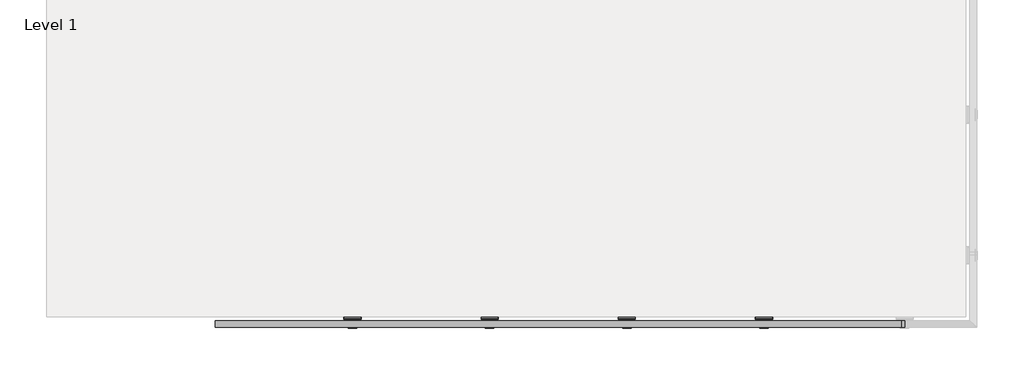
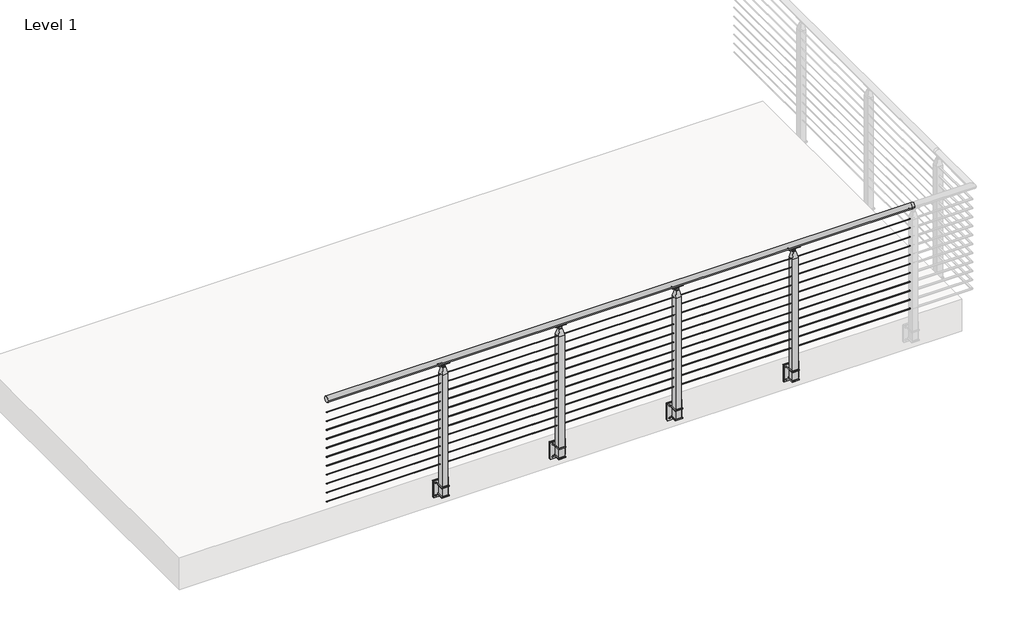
# One storey, part 3 of 26: 1 railing.
"""IFC4 building model written with IfcOpenShell, lengths in millimetres."""

import ifcopenshell
import ifcopenshell.guid

model = None  # the IFC model being written
_history = None  # IfcOwnerHistory: only IFC2X3 demands one
_inside = {}  # id of a spatial element -> (the spatial element, [elements in it])
_under = {}  # id of a project, library or spatial element -> (it, [spatial elements below it])
_declared = {}  # id of a project -> (the project, [libraries it declares])
_typed = {}  # id of a type object -> (the type object, [elements of that type])
_made_of = {}  # id of a material, layer set ... -> (it, [elements and type objects made of it])


def new_model(schema):
    """Start an empty IFC model of exactly this schema.

    Asked for "IFC4X3", IfcOpenShell would pick the latest addendum, in which some entities
    have other attributes; the version numbers below select the first issue.
    IFC2X3 requires an IfcOwnerHistory on every rooted entity: one is made here for all.
    """
    global model, _history
    if schema == "IFC4X3":
        model = ifcopenshell.file(schema_version=(4, 3, 0, 0))
    else:
        model = ifcopenshell.file(schema=schema)
    _inside.clear()
    _under.clear()
    _declared.clear()
    _typed.clear()
    _made_of.clear()
    _history = None
    if model.schema == "IFC2X3":
        org = make("IfcOrganization", Name="unknown")
        user = make(
            "IfcPersonAndOrganization",
            ThePerson=make("IfcPerson", FamilyName="unknown"),
            TheOrganization=org,
        )
        app = make(
            "IfcApplication",
            ApplicationDeveloper=org,
            Version="unknown",
            ApplicationFullName="unknown",
            ApplicationIdentifier="unknown",
        )
        _history = make(
            "IfcOwnerHistory",
            OwningUser=user,
            OwningApplication=app,
            ChangeAction="ADDED",
            CreationDate=0,
        )
    return model


def make(cls, **values):
    """One entity of the class cls with the attributes given. An attribute that is None is left unset."""
    return model.create_entity(
        cls, **{name: value for name, value in values.items() if value is not None}
    )


def rooted(cls, **values):
    """An entity with a GlobalId (a new one), such as an element, a storey or a relation."""
    return make(cls, GlobalId=ifcopenshell.guid.new(), OwnerHistory=_history, **values)


def si_unit(unit_type, name, prefix=None):
    """IfcSIUnit, for example si_unit("LENGTHUNIT", "METRE", prefix="MILLI")."""
    return make("IfcSIUnit", UnitType=unit_type, Prefix=prefix, Name=name)


def assignment(units):
    """IfcUnitAssignment: the units of a project."""
    return None if units is None else make("IfcUnitAssignment", Units=units)


def point(xyz):
    """IfcCartesianPoint."""
    return None if xyz is None else make("IfcCartesianPoint", Coordinates=xyz)


def direction(xyz):
    """IfcDirection."""
    return None if xyz is None else make("IfcDirection", DirectionRatios=xyz)


def frame(location, z_axis=None, x_axis=None):
    """IfcAxis2Placement3D, a coordinate frame: its origin and axes. An axis left out is left unset."""
    return make(
        "IfcAxis2Placement3D",
        Location=point(location),
        Axis=direction(z_axis),
        RefDirection=direction(x_axis),
    )


def frame_2d(location, x_axis=None):
    """IfcAxis2Placement2D, a coordinate frame in the plane: its origin and x axis."""
    return make(
        "IfcAxis2Placement2D", Location=point(location), RefDirection=direction(x_axis)
    )


def origin():
    """The frame at (0, 0, 0) with its axes left unset."""
    return frame((0.0, 0.0, 0.0))


def place(relative_to, where):
    """IfcLocalPlacement: puts the frame where relative to a parent placement (None: the world)."""
    return make(
        "IfcLocalPlacement", PlacementRelTo=relative_to, RelativePlacement=where
    )


def context(
    kind, dimensions, precision=None, world=None, true_north=None, identifier=None
):
    """IfcGeometricRepresentationContext, for example the 3D "Model" context."""
    return make(
        "IfcGeometricRepresentationContext",
        ContextIdentifier=identifier,
        ContextType=kind,
        CoordinateSpaceDimension=dimensions,
        Precision=precision,
        WorldCoordinateSystem=world,
        TrueNorth=true_north,
    )


def project(units=None, contexts=None):
    """IfcProject with its units and contexts."""
    return rooted(
        "IfcProject",
        Name="project",
        RepresentationContexts=contexts,
        UnitsInContext=assignment(units),
    )


def spatial(cls, under=None, at=None, **own):
    """A site, building, storey or space (cls), placed at a placement, below another one or the project."""
    s = rooted(cls, ObjectPlacement=at, **own)
    if under is not None:
        _under.setdefault(under.id(), (under, []))[1].append(s)
    return s


def polyline(points):
    """IfcPolyline through the points."""
    return make("IfcPolyline", Points=[point(p) for p in points])


def circle_curve(where, radius):
    """IfcCircle in the frame where."""
    return make("IfcCircle", Position=where, Radius=radius)


def trimmed(basis, trim1, trim2, sense, master):
    """IfcTrimmedCurve: the piece of a basis curve between two trims."""
    return make(
        "IfcTrimmedCurve",
        BasisCurve=basis,
        Trim1=trim1,
        Trim2=trim2,
        SenseAgreement=sense,
        MasterRepresentation=master,
    )


def segment(curve, same_sense, transition):
    """IfcCompositeCurveSegment."""
    return make(
        "IfcCompositeCurveSegment",
        Transition=transition,
        SameSense=same_sense,
        ParentCurve=curve,
    )


def composite_curve(segments, self_intersect=None):
    """IfcCompositeCurve: segments joined end to end."""
    return make("IfcCompositeCurve", Segments=segments, SelfIntersect=self_intersect)


def outline(outer, holes=None, kind="AREA"):
    """IfcArbitraryClosedProfileDef: a profile drawn as a closed curve; with holes, ...WithVoids."""
    if holes is None:
        return make("IfcArbitraryClosedProfileDef", ProfileType=kind, OuterCurve=outer)
    return make(
        "IfcArbitraryProfileDefWithVoids",
        ProfileType=kind,
        OuterCurve=outer,
        InnerCurves=holes,
    )


def extrude(swept, where, along, depth):
    """IfcExtrudedAreaSolid: the profile swept, set in the frame where, extruded along a direction by depth."""
    return make(
        "IfcExtrudedAreaSolid",
        SweptArea=swept,
        Position=where,
        ExtrudedDirection=direction(along),
        Depth=depth,
    )


def faces_of(points, faces, orient=None, outer=None):
    """IfcFace entities. A face is a list of loops; a loop is a list of indices into points, from 0.

    orient and outer hold one flag for each loop. By default every Orientation is true, the
    first loop of a face is its IfcFaceOuterBound and the others are IfcFaceBound.
    """
    made = []
    for i, loops in enumerate(faces):
        bounds = []
        for j, loop in enumerate(loops):
            is_outer = j == 0 if outer is None else outer[i][j]
            bounds.append(
                make(
                    "IfcFaceOuterBound" if is_outer else "IfcFaceBound",
                    Bound=make("IfcPolyLoop", Polygon=[points[k] for k in loop]),
                    Orientation=True if orient is None else orient[i][j],
                )
            )
        made.append(make("IfcFace", Bounds=bounds))
    return made


def faceted_brep(points, faces, orient=None, outer=None, voids=None):
    """IfcFacetedBrep: a solid bounded by flat faces; with voids (closed shells), ...WithVoids."""
    shared = [point(p) for p in points]
    hull = make("IfcClosedShell", CfsFaces=faces_of(shared, faces, orient, outer))
    if voids is None:
        return make("IfcFacetedBrep", Outer=hull)
    return make(
        "IfcFacetedBrepWithVoids",
        Outer=hull,
        Voids=[
            make(cls, CfsFaces=faces_of(shared, fs, o, b)) for cls, fs, o, b in voids
        ],
    )


def shape(context_of_items, identifier, shape_type, items):
    """IfcShapeRepresentation: the items that make up one representation, for example the "Body"."""
    return make(
        "IfcShapeRepresentation",
        ContextOfItems=context_of_items,
        RepresentationIdentifier=identifier,
        RepresentationType=shape_type,
        Items=items,
    )


def made_of(thing, what):
    """Note that an element or type object is made of a material, layer set ...; save() writes the relation."""
    if what is not None:
        _made_of.setdefault(what.id(), (what, []))[1].append(thing)
    return thing


def element(
    cls,
    number,
    at=None,
    inside=None,
    cuts=None,
    type_object=None,
    material=None,
    context=None,
    identifier="Body",
    shape_type=None,
    held_by="IfcProductDefinitionShape",
    body=None,
    shapes=None,
    **own,
):
    """One element of the class cls, such as IfcWall. Its Tag is "e" and its number.

    at: its placement. inside: the storey or other place that contains it. cuts: it is an
    opening in that element (IfcRelVoidsElement). A single representation is given by context,
    identifier, shape_type and body (its items); several are given by shapes. held_by: the class
    of the entity that holds the representations. save() writes the other relations.
    """
    e = rooted(cls, Tag="e%d" % number, ObjectPlacement=at, **own)
    if body is not None:
        shapes = [shape(context, identifier, shape_type, body)]
    if shapes is not None:
        e.Representation = make(held_by, Representations=shapes)
    if inside is not None:
        _inside.setdefault(inside.id(), (inside, []))[1].append(e)
    if cuts is not None:
        rooted(
            "IfcRelVoidsElement", RelatingBuildingElement=cuts, RelatedOpeningElement=e
        )
    if type_object is not None:
        _typed.setdefault(type_object.id(), (type_object, []))[1].append(e)
    return made_of(e, material)


def aggregate(whole, parts):
    """IfcRelAggregates: a whole, such as a stair, and the parts it consists of."""
    return rooted("IfcRelAggregates", RelatingObject=whole, RelatedObjects=parts)


def save(model, path):
    """Write the relations noted so far, then the file.

    IfcRelAggregates (storeys below a building ...), IfcRelContainedInSpatialStructure (elements
    in a storey), IfcRelDefinesByType, IfcRelAssociatesMaterial and IfcRelDeclares: one each for
    every whole, place, type object, material and project.
    """
    for whole, parts in _under.values():
        aggregate(whole, parts)
    for where, things in _inside.values():
        rooted(
            "IfcRelContainedInSpatialStructure",
            RelatedElements=things,
            RelatingStructure=where,
        )
    for kind, things in _typed.values():
        rooted("IfcRelDefinesByType", RelatedObjects=things, RelatingType=kind)
    for what, things in _made_of.values():
        rooted("IfcRelAssociatesMaterial", RelatedObjects=things, RelatingMaterial=what)
    for by, libraries in _declared.values():
        rooted("IfcRelDeclares", RelatingContext=by, RelatedDefinitions=libraries)
    model.write(path)


def plane_surface(at):
    """IfcPlane: the flat surface through the origin of the frame at, square to its z axis."""
    return make("IfcPlane", Position=at)


def cylinder_surface(at, radius):
    """IfcCylindricalSurface: all points at the distance radius from the z axis of the frame at."""
    return make("IfcCylindricalSurface", Position=at, Radius=radius)


def advanced_brep(points, edges, surfaces, faces):
    """IfcAdvancedBrep: a solid bounded by faces that lie on surfaces and meet in shared edges.

    An edge is (start, end): straight between two places in points (the first is 0);
    or (start, end, curve); or (start, end, curve, False) where it runs against its curve.
    A face is (place in surfaces, loops), or (place, loops, False) where it looks against
    its surface's normal. A loop lists edges by number (the first is 1), with a minus sign
    where the edge is run from its end to its start. The first loop is the outer one.
    """
    corners = [point(p) for p in points]
    vertices = [make("IfcVertexPoint", VertexGeometry=c) for c in corners]
    made = []
    for start, end, *more in edges:
        made.append(
            make(
                "IfcEdgeCurve",
                EdgeStart=vertices[start],
                EdgeEnd=vertices[end],
                EdgeGeometry=more[0] if more else make("IfcPolyline", Points=[corners[start], corners[end]]),
                SameSense=more[1] if len(more) > 1 else True,
            )
        )
    hull = []
    for where, loops, *sense in faces:
        bounds = []
        for j, loop in enumerate(loops):
            ring = [make("IfcOrientedEdge", EdgeElement=made[abs(k) - 1], Orientation=k > 0) for k in loop]
            bounds.append(
                make(
                    "IfcFaceOuterBound" if j == 0 else "IfcFaceBound",
                    Bound=make("IfcEdgeLoop", EdgeList=ring),
                    Orientation=True,
                )
            )
        hull.append(make("IfcAdvancedFace", Bounds=bounds, FaceSurface=surfaces[where], SameSense=sense[0] if sense else True))
    return make("IfcAdvancedBrep", Outer=make("IfcClosedShell", CfsFaces=hull))


model = new_model("IFC4")

# Units and contexts
model_context = context("Model", 3, world=origin())
ifc_project = project(units=[si_unit("LENGTHUNIT", "METRE", prefix="MILLI")], contexts=[model_context])

# Site, building, storey
site = spatial("IfcSite", under=ifc_project)
building = spatial("IfcBuilding", under=site)
storey = spatial("IfcBuildingStorey", under=building, Name="Level 1", Elevation=0.0)

# Railing
placement = place(None, origin())
element("IfcRailing", 1, ObjectType="VIVA-CUBE-Cable-Fascia Mount-Straight", at=placement, inside=storey, context=model_context, shape_type="SolidModel", body=[
    advanced_brep(
    [(-10491.8783367, -57264.3465075, 1054.1), (-10491.8783367, -57213.5465075, 1054.1), (-5411.8783367, -57264.3465075, 1054.1), (-5411.8783367, -57213.5465075, 1054.1), (-5386.8752117, -57264.3465075, 1054.1), (-5386.8752117, -57213.5465075, 1054.1)],
    [
        (0, 1, circle_curve(frame((-10491.8783367, -57238.9465075, 1054.1), z_axis=(-1.0, 0.0, 0.0), x_axis=(0.0, 1.0, 0.0)), 25.4)),
        (1, 0, circle_curve(frame((-10491.8783367, -57238.9465075, 1054.1), z_axis=(-1.0, 0.0, 0.0), x_axis=(0.0, 1.0, 0.0)), 25.4)),
        (0, 2),
        (2, 3, circle_curve(frame((-5411.8783367, -57238.9465075, 1054.1), z_axis=(-1.0, 0.0, 0.0), x_axis=(0.0, 1.0, 0.0)), 25.4)),
        (3, 1),
        (3, 2, circle_curve(frame((-5411.8783367, -57238.9465075, 1054.1), z_axis=(-1.0, 0.0, 0.0), x_axis=(0.0, 1.0, 0.0)), 25.4)),
        (4, 5, circle_curve(frame((-5386.8752117, -57238.9465075, 1054.1), z_axis=(1.0, 0.0, 0.0), x_axis=(0.0, 1.0, 0.0)), 25.4)),
        (5, 4, circle_curve(frame((-5386.8752117, -57238.9465075, 1054.1), z_axis=(1.0, 0.0, 0.0), x_axis=(0.0, 1.0, 0.0)), 25.4)),
        (2, 4),
        (5, 3),
    ],
    [
        plane_surface(frame((-10491.8783367, -57238.9465075, 1079.5), z_axis=(-1.0, 0.0, 0.0), x_axis=(0.0, 1.0, 0.0))),
        cylinder_surface(frame((-10491.8783367, -57238.9465075, 1054.1), z_axis=(-1.0, 0.0, 0.0), x_axis=(0.0, 1.0, 0.0)), 25.4),
        plane_surface(frame((-5386.8752117, -57238.9465075, 1079.5), z_axis=(1.0, 0.0, 0.0), x_axis=(0.0, 1.0, 0.0))),
        cylinder_surface(frame((-5411.8783367, -57238.9465075, 1054.1), z_axis=(-1.0, 0.0, 0.0), x_axis=(0.0, 1.0, 0.0)), 25.4),
    ],
    [
        (0, [[1, 2]]),
        (1, [[-1, 3, 4, 5]]),
        (1, [[-2, -5, 6, -3]]),
        (2, [[7, 8]]),
        (3, [[-4, 9, -8, 10]]),
        (3, [[-6, -10, -7, -9]]),
    ],
),
    extrude(outline(composite_curve([segment(trimmed(circle_curve(frame_2d((-57238.9465075, 937.4124)), 2.3876), [point((-57236.5589075, 937.4124))], [point((-57241.3341075, 937.4124))], False, "CARTESIAN"), True, "CONTINUOUS"), segment(trimmed(circle_curve(frame_2d((-57238.9465075, 937.4124)), 2.3876), [point((-57241.3341075, 937.4124))], [point((-57236.5589075, 937.4124))], False, "CARTESIAN"), True, "CONTINUOUS")], self_intersect=False)), frame((-10491.8783367, 0.0, 0.0), z_axis=(1.0, 0.0, 0.0), x_axis=(0.0, 1.0, 0.0)), (0.0, 0.0, 1.0), 5080.0),
    extrude(outline(composite_curve([segment(trimmed(circle_curve(frame_2d((-57238.9465075, 854.8624)), 2.3876), [point((-57236.5589075, 854.8624))], [point((-57241.3341075, 854.8624))], False, "CARTESIAN"), True, "CONTINUOUS"), segment(trimmed(circle_curve(frame_2d((-57238.9465075, 854.8624)), 2.3876), [point((-57241.3341075, 854.8624))], [point((-57236.5589075, 854.8624))], False, "CARTESIAN"), True, "CONTINUOUS")], self_intersect=False)), frame((-10491.8783367, 0.0, 0.0), z_axis=(1.0, 0.0, 0.0), x_axis=(0.0, 1.0, 0.0)), (0.0, 0.0, 1.0), 5080.0),
    extrude(outline(composite_curve([segment(trimmed(circle_curve(frame_2d((-57238.9465075, 772.3124)), 2.3876), [point((-57236.5589075, 772.3124))], [point((-57241.3341075, 772.3124))], False, "CARTESIAN"), True, "CONTINUOUS"), segment(trimmed(circle_curve(frame_2d((-57238.9465075, 772.3124)), 2.3876), [point((-57241.3341075, 772.3124))], [point((-57236.5589075, 772.3124))], False, "CARTESIAN"), True, "CONTINUOUS")], self_intersect=False)), frame((-10491.8783367, 0.0, 0.0), z_axis=(1.0, 0.0, 0.0), x_axis=(0.0, 1.0, 0.0)), (0.0, 0.0, 1.0), 5080.0),
    extrude(outline(composite_curve([segment(trimmed(circle_curve(frame_2d((-57238.9465075, 689.7624)), 2.3876), [point((-57236.5589075, 689.7624))], [point((-57241.3341075, 689.7624))], False, "CARTESIAN"), True, "CONTINUOUS"), segment(trimmed(circle_curve(frame_2d((-57238.9465075, 689.7624)), 2.3876), [point((-57241.3341075, 689.7624))], [point((-57236.5589075, 689.7624))], False, "CARTESIAN"), True, "CONTINUOUS")], self_intersect=False)), frame((-10491.8783367, 0.0, 0.0), z_axis=(1.0, 0.0, 0.0), x_axis=(0.0, 1.0, 0.0)), (0.0, 0.0, 1.0), 5080.0),
    extrude(outline(composite_curve([segment(trimmed(circle_curve(frame_2d((-57238.9465075, 607.2124)), 2.3876), [point((-57236.5589075, 607.2124))], [point((-57241.3341075, 607.2124))], False, "CARTESIAN"), True, "CONTINUOUS"), segment(trimmed(circle_curve(frame_2d((-57238.9465075, 607.2124)), 2.3876), [point((-57241.3341075, 607.2124))], [point((-57236.5589075, 607.2124))], False, "CARTESIAN"), True, "CONTINUOUS")], self_intersect=False)), frame((-10491.8783367, 0.0, 0.0), z_axis=(1.0, 0.0, 0.0), x_axis=(0.0, 1.0, 0.0)), (0.0, 0.0, 1.0), 5080.0),
    extrude(outline(composite_curve([segment(trimmed(circle_curve(frame_2d((-57238.9465075, 524.6624)), 2.3876), [point((-57236.5589075, 524.6624))], [point((-57241.3341075, 524.6624))], False, "CARTESIAN"), True, "CONTINUOUS"), segment(trimmed(circle_curve(frame_2d((-57238.9465075, 524.6624)), 2.3876), [point((-57241.3341075, 524.6624))], [point((-57236.5589075, 524.6624))], False, "CARTESIAN"), True, "CONTINUOUS")], self_intersect=False)), frame((-10491.8783367, 0.0, 0.0), z_axis=(1.0, 0.0, 0.0), x_axis=(0.0, 1.0, 0.0)), (0.0, 0.0, 1.0), 5080.0),
    extrude(outline(composite_curve([segment(trimmed(circle_curve(frame_2d((-57238.9465075, 442.1124)), 2.3876), [point((-57236.5589075, 442.1124))], [point((-57241.3341075, 442.1124))], False, "CARTESIAN"), True, "CONTINUOUS"), segment(trimmed(circle_curve(frame_2d((-57238.9465075, 442.1124)), 2.3876), [point((-57241.3341075, 442.1124))], [point((-57236.5589075, 442.1124))], False, "CARTESIAN"), True, "CONTINUOUS")], self_intersect=False)), frame((-10491.8783367, 0.0, 0.0), z_axis=(1.0, 0.0, 0.0), x_axis=(0.0, 1.0, 0.0)), (0.0, 0.0, 1.0), 5080.0),
    extrude(outline(composite_curve([segment(trimmed(circle_curve(frame_2d((-57238.9465075, 359.5624)), 2.3876), [point((-57236.5589075, 359.5624))], [point((-57241.3341075, 359.5624))], False, "CARTESIAN"), True, "CONTINUOUS"), segment(trimmed(circle_curve(frame_2d((-57238.9465075, 359.5624)), 2.3876), [point((-57241.3341075, 359.5624))], [point((-57236.5589075, 359.5624))], False, "CARTESIAN"), True, "CONTINUOUS")], self_intersect=False)), frame((-10491.8783367, 0.0, 0.0), z_axis=(1.0, 0.0, 0.0), x_axis=(0.0, 1.0, 0.0)), (0.0, 0.0, 1.0), 5080.0),
    extrude(outline(composite_curve([segment(trimmed(circle_curve(frame_2d((-57238.9465075, 277.0124)), 2.3876), [point((-57236.5589075, 277.0124))], [point((-57241.3341075, 277.0124))], False, "CARTESIAN"), True, "CONTINUOUS"), segment(trimmed(circle_curve(frame_2d((-57238.9465075, 277.0124)), 2.3876), [point((-57241.3341075, 277.0124))], [point((-57236.5589075, 277.0124))], False, "CARTESIAN"), True, "CONTINUOUS")], self_intersect=False)), frame((-10491.8783367, 0.0, 0.0), z_axis=(1.0, 0.0, 0.0), x_axis=(0.0, 1.0, 0.0)), (0.0, 0.0, 1.0), 5080.0),
    extrude(outline(composite_curve([segment(trimmed(circle_curve(frame_2d((-57238.9465075, 194.4624)), 2.3876), [point((-57236.5589075, 194.4624))], [point((-57241.3341075, 194.4624))], False, "CARTESIAN"), True, "CONTINUOUS"), segment(trimmed(circle_curve(frame_2d((-57238.9465075, 194.4624)), 2.3876), [point((-57241.3341075, 194.4624))], [point((-57236.5589075, 194.4624))], False, "CARTESIAN"), True, "CONTINUOUS")], self_intersect=False)), frame((-10491.8783367, 0.0, 0.0), z_axis=(1.0, 0.0, 0.0), x_axis=(0.0, 1.0, 0.0)), (0.0, 0.0, 1.0), 5080.0),
    extrude(outline(composite_curve([segment(trimmed(circle_curve(frame_2d((-57238.9465075, 111.9124)), 2.3876), [point((-57236.5589075, 111.9124))], [point((-57241.3341075, 111.9124))], False, "CARTESIAN"), True, "CONTINUOUS"), segment(trimmed(circle_curve(frame_2d((-57238.9465075, 111.9124)), 2.3876), [point((-57241.3341075, 111.9124))], [point((-57236.5589075, 111.9124))], False, "CARTESIAN"), True, "CONTINUOUS")], self_intersect=False)), frame((-10491.8783367, 0.0, 0.0), z_axis=(1.0, 0.0, 0.0), x_axis=(0.0, 1.0, 0.0)), (0.0, 0.0, 1.0), 5080.0),
    extrude(outline(polyline([(-6363.9814617, -57184.4334719), (-6363.9814617, -57194.4156719), (-6490.9814617, -57194.4156719), (-6490.9814617, -57184.4334719), (-6363.9814617, -57184.4334719)])), frame((0.0, 0.0, -209.55), z_axis=(0.0, 0.0, 1.0), x_axis=(1.0, 0.0, 0.0)), (0.0, 0.0, 1.0), 152.4),
    extrude(outline(composite_curve([segment(polyline([(-57.15, -6366.5214617), (-57.15, -6488.4414617)]), True, "CONTINUOUS"), segment(trimmed(circle_curve(frame_2d((-59.69, -6488.4414617)), 2.54), [point((-57.15, -6488.4414617))], [point((-59.69, -6490.9814617))], False, "CARTESIAN"), True, "CONTINUOUS"), segment(polyline([(-59.69, -6490.9814617), (-207.01, -6490.9814617)]), True, "CONTINUOUS"), segment(trimmed(circle_curve(frame_2d((-207.01, -6488.4414617)), 2.54), [point((-207.01, -6490.9814617))], [point((-209.55, -6488.4414617))], False, "CARTESIAN"), True, "CONTINUOUS"), segment(polyline([(-209.55, -6488.4414617), (-209.55, -6366.5214617)]), True, "CONTINUOUS"), segment(trimmed(circle_curve(frame_2d((-207.01, -6366.5214617)), 2.54), [point((-209.55, -6366.5214617))], [point((-207.01, -6363.9814617))], False, "CARTESIAN"), True, "CONTINUOUS"), segment(polyline([(-207.01, -6363.9814617), (-59.69, -6363.9814617)]), True, "CONTINUOUS"), segment(trimmed(circle_curve(frame_2d((-59.69, -6366.5214617)), 2.54), [point((-59.69, -6363.9814617))], [point((-57.15, -6366.5214617))], False, "CARTESIAN"), True, "CONTINUOUS")], self_intersect=False), holes=[composite_curve([segment(trimmed(circle_curve(frame_2d((-76.2, -6471.9314617)), 5.55625), [point((-76.2, -6466.3752117))], [point((-76.2, -6477.4877117))], True, "CARTESIAN"), True, "CONTINUOUS"), segment(trimmed(circle_curve(frame_2d((-76.2, -6471.9314617)), 5.55625), [point((-76.2, -6477.4877117))], [point((-76.2, -6466.3752117))], True, "CARTESIAN"), True, "CONTINUOUS")], self_intersect=False), composite_curve([segment(trimmed(circle_curve(frame_2d((-76.2, -6383.0314617)), 5.55625), [point((-76.2, -6377.4752117))], [point((-76.2, -6388.5877117))], True, "CARTESIAN"), True, "CONTINUOUS"), segment(trimmed(circle_curve(frame_2d((-76.2, -6383.0314617)), 5.55625), [point((-76.2, -6388.5877117))], [point((-76.2, -6377.4752117))], True, "CARTESIAN"), True, "CONTINUOUS")], self_intersect=False), composite_curve([segment(trimmed(circle_curve(frame_2d((-190.5, -6383.0314617)), 5.55625), [point((-190.5, -6377.4752117))], [point((-190.5, -6388.5877117))], True, "CARTESIAN"), True, "CONTINUOUS"), segment(trimmed(circle_curve(frame_2d((-190.5, -6383.0314617)), 5.55625), [point((-190.5, -6388.5877117))], [point((-190.5, -6377.4752117))], True, "CARTESIAN"), True, "CONTINUOUS")], self_intersect=False), composite_curve([segment(trimmed(circle_curve(frame_2d((-190.5, -6471.9314617)), 5.55625), [point((-190.5, -6466.3752117))], [point((-190.5, -6477.4877117))], True, "CARTESIAN"), True, "CONTINUOUS"), segment(trimmed(circle_curve(frame_2d((-190.5, -6471.9314617)), 5.55625), [point((-190.5, -6477.4877117))], [point((-190.5, -6466.3752117))], True, "CARTESIAN"), True, "CONTINUOUS")], self_intersect=False)]), frame((0.0, -57204.3978719, 0.0), z_axis=(0.0, 1.0, 0.0), x_axis=(0.0, 0.0, 1.0)), (0.0, 0.0, 1.0), 9.9822),
    extrude(outline(polyline([(-6459.2314617, -57194.4156719), (-6395.7314617, -57194.4156719), (-6395.7314617, -57270.6965075), (-6459.2314617, -57270.6965075), (-6459.2314617, -57194.4156719)])), frame((0.0, 0.0, -182.5625), z_axis=(0.0, 0.0, 1.0), x_axis=(1.0, 0.0, 0.0)), (0.0, 0.0, 1.0), 9.5123),
    extrude(outline(polyline([(-6459.2314617, -57194.4156719), (-6395.7314617, -57194.4156719), (-6395.7314617, -57270.6965075), (-6459.2314617, -57270.6965075), (-6459.2314617, -57194.4156719)])), frame((0.0, 0.0, -93.6625), z_axis=(0.0, 0.0, 1.0), x_axis=(1.0, 0.0, 0.0)), (0.0, 0.0, 1.0), 9.525),
    faceted_brep([(-6414.7814617, -57226.2465075, 997.2902749), (-6440.1814617, -57226.2465075, 997.2902749), (-6440.1814617, -57234.9777575, 997.2902749), (-6414.7814617, -57234.9777575, 997.2902749), (-6440.1814617, -57251.6465075, 997.2902749), (-6414.7814617, -57251.6465075, 997.2902749), (-6414.7814617, -57242.9152575, 997.2902749), (-6440.1814617, -57242.9152575, 997.2902749), (-6402.0814617, -57213.5465075, 941.1347854), (-6402.0814617, -57264.3465075, 941.1347854), (-6452.8814617, -57213.5465075, 941.1347854), (-6452.8814617, -57264.3465075, 941.1347854), (-6402.0814617, -57213.5465075, -173.0502), (-6402.0814617, -57264.3465075, -173.0502), (-6452.8814617, -57264.3465075, -173.0502), (-6452.8814617, -57213.5465075, -173.0502), (-6440.1814617, -57242.9152575, 1009.3306013), (-6414.7814617, -57242.9152575, 1009.3306013), (-6414.7814617, -57234.9777575, 1009.3306013), (-6440.1814617, -57234.9777575, 1009.3306013)], [[[0, 1, 2, 3]], [[4, 5, 6, 7]], [[8, 0, 3, 6, 5, 9]], [[1, 0, 8, 10]], [[1, 10, 11, 4, 7, 2]], [[5, 4, 11, 9]], [[12, 13, 14, 15]], [[12, 15, 10, 8]], [[15, 14, 11, 10]], [[14, 13, 9, 11]], [[13, 12, 8, 9]], [[16, 17, 18, 19]], [[17, 16, 7, 6]], [[18, 17, 6, 3]], [[19, 18, 3, 2]], [[16, 19, 2, 7]]]),
    extrude(outline(composite_curve([segment(trimmed(circle_curve(frame_2d((-57238.8497791, 1054.1433184)), 25.4345159), [point((-57251.413582, 1032.0284941))], [point((-57226.4545454, 1031.9335733))], True, "CARTESIAN"), True, "CONTINUOUS"), segment(trimmed(circle_curve(frame_2d((-57225.2098922, 1029.4310885)), 2.7949225), [point((-57226.4545454, 1031.9335733))], [point((-57223.7325872, 1027.0585031))], False, "CARTESIAN"), True, "CONTINUOUS"), segment(trimmed(circle_curve(frame_2d((-57238.9832422, 1054.905945)), 31.75), [point((-57223.7325872, 1027.0585031))], [point((-57255.2494794, 1027.6392616))], False, "CARTESIAN"), True, "CONTINUOUS"), segment(trimmed(circle_curve(frame_2d((-57252.9611397, 1029.5101807)), 2.9558141), [point((-57255.2494794, 1027.6392616))], [point((-57251.413582, 1032.0284941))], False, "CARTESIAN"), True, "CONTINUOUS")], self_intersect=False)), frame((-6472.7188617, 0.0, 0.0), z_axis=(1.0, 0.0, 0.0), x_axis=(0.0, 1.0, 0.0)), (0.0, 0.0, 1.0), 90.4748),
    extrude(outline(composite_curve([segment(polyline([(1023.3685171, -6400.4135469), (1023.3685171, -6454.5493766)]), True, "CONTINUOUS"), segment(trimmed(circle_curve(frame_2d((1009.0006022, -6454.5493766)), 14.3679149), [point((1023.3685171, -6454.5493766))], [point((1009.0006022, -6440.1814617))], True, "CARTESIAN"), True, "CONTINUOUS"), segment(trimmed(circle_curve(frame_2d((1009.0006022, -6427.4814617)), 12.7), [point((1009.0006022, -6440.1814617))], [point((1009.0006022, -6414.7814617))], False, "CARTESIAN"), True, "CONTINUOUS"), segment(trimmed(circle_curve(frame_2d((1009.0006022, -6400.4135469)), 14.3679149), [point((1009.0006022, -6414.7814617))], [point((1023.3685171, -6400.4135469))], True, "CARTESIAN"), True, "CONTINUOUS")], self_intersect=False)), frame((0.0, -57241.4865075, 0.0), z_axis=(0.0, 1.0, 0.0), x_axis=(0.0, 0.0, 1.0)), (0.0, 0.0, 1.0), 5.08),
    extrude(outline(polyline([(-7379.9814617, -57184.4334719), (-7379.9814617, -57194.4156719), (-7506.9814617, -57194.4156719), (-7506.9814617, -57184.4334719), (-7379.9814617, -57184.4334719)])), frame((0.0, 0.0, -209.55), z_axis=(0.0, 0.0, 1.0), x_axis=(1.0, 0.0, 0.0)), (0.0, 0.0, 1.0), 152.4),
    extrude(outline(composite_curve([segment(polyline([(-57.15, -7382.5214617), (-57.15, -7504.4414617)]), True, "CONTINUOUS"), segment(trimmed(circle_curve(frame_2d((-59.69, -7504.4414617)), 2.54), [point((-57.15, -7504.4414617))], [point((-59.69, -7506.9814617))], False, "CARTESIAN"), True, "CONTINUOUS"), segment(polyline([(-59.69, -7506.9814617), (-207.01, -7506.9814617)]), True, "CONTINUOUS"), segment(trimmed(circle_curve(frame_2d((-207.01, -7504.4414617)), 2.54), [point((-207.01, -7506.9814617))], [point((-209.55, -7504.4414617))], False, "CARTESIAN"), True, "CONTINUOUS"), segment(polyline([(-209.55, -7504.4414617), (-209.55, -7382.5214617)]), True, "CONTINUOUS"), segment(trimmed(circle_curve(frame_2d((-207.01, -7382.5214617)), 2.54), [point((-209.55, -7382.5214617))], [point((-207.01, -7379.9814617))], False, "CARTESIAN"), True, "CONTINUOUS"), segment(polyline([(-207.01, -7379.9814617), (-59.69, -7379.9814617)]), True, "CONTINUOUS"), segment(trimmed(circle_curve(frame_2d((-59.69, -7382.5214617)), 2.54), [point((-59.69, -7379.9814617))], [point((-57.15, -7382.5214617))], False, "CARTESIAN"), True, "CONTINUOUS")], self_intersect=False), holes=[composite_curve([segment(trimmed(circle_curve(frame_2d((-76.2, -7487.9314617)), 5.55625), [point((-76.2, -7482.3752117))], [point((-76.2, -7493.4877117))], True, "CARTESIAN"), True, "CONTINUOUS"), segment(trimmed(circle_curve(frame_2d((-76.2, -7487.9314617)), 5.55625), [point((-76.2, -7493.4877117))], [point((-76.2, -7482.3752117))], True, "CARTESIAN"), True, "CONTINUOUS")], self_intersect=False), composite_curve([segment(trimmed(circle_curve(frame_2d((-76.2, -7399.0314617)), 5.55625), [point((-76.2, -7393.4752117))], [point((-76.2, -7404.5877117))], True, "CARTESIAN"), True, "CONTINUOUS"), segment(trimmed(circle_curve(frame_2d((-76.2, -7399.0314617)), 5.55625), [point((-76.2, -7404.5877117))], [point((-76.2, -7393.4752117))], True, "CARTESIAN"), True, "CONTINUOUS")], self_intersect=False), composite_curve([segment(trimmed(circle_curve(frame_2d((-190.5, -7399.0314617)), 5.55625), [point((-190.5, -7393.4752117))], [point((-190.5, -7404.5877117))], True, "CARTESIAN"), True, "CONTINUOUS"), segment(trimmed(circle_curve(frame_2d((-190.5, -7399.0314617)), 5.55625), [point((-190.5, -7404.5877117))], [point((-190.5, -7393.4752117))], True, "CARTESIAN"), True, "CONTINUOUS")], self_intersect=False), composite_curve([segment(trimmed(circle_curve(frame_2d((-190.5, -7487.9314617)), 5.55625), [point((-190.5, -7482.3752117))], [point((-190.5, -7493.4877117))], True, "CARTESIAN"), True, "CONTINUOUS"), segment(trimmed(circle_curve(frame_2d((-190.5, -7487.9314617)), 5.55625), [point((-190.5, -7493.4877117))], [point((-190.5, -7482.3752117))], True, "CARTESIAN"), True, "CONTINUOUS")], self_intersect=False)]), frame((0.0, -57204.3978719, 0.0), z_axis=(0.0, 1.0, 0.0), x_axis=(0.0, 0.0, 1.0)), (0.0, 0.0, 1.0), 9.9822),
    extrude(outline(polyline([(-7475.2314617, -57194.4156719), (-7411.7314617, -57194.4156719), (-7411.7314617, -57270.6965075), (-7475.2314617, -57270.6965075), (-7475.2314617, -57194.4156719)])), frame((0.0, 0.0, -182.5625), z_axis=(0.0, 0.0, 1.0), x_axis=(1.0, 0.0, 0.0)), (0.0, 0.0, 1.0), 9.5123),
    extrude(outline(polyline([(-7475.2314617, -57194.4156719), (-7411.7314617, -57194.4156719), (-7411.7314617, -57270.6965075), (-7475.2314617, -57270.6965075), (-7475.2314617, -57194.4156719)])), frame((0.0, 0.0, -93.6625), z_axis=(0.0, 0.0, 1.0), x_axis=(1.0, 0.0, 0.0)), (0.0, 0.0, 1.0), 9.525),
    faceted_brep([(-7430.7814617, -57226.2465075, 997.2902749), (-7456.1814617, -57226.2465075, 997.2902749), (-7456.1814617, -57234.9777575, 997.2902749), (-7430.7814617, -57234.9777575, 997.2902749), (-7456.1814617, -57251.6465075, 997.2902749), (-7430.7814617, -57251.6465075, 997.2902749), (-7430.7814617, -57242.9152575, 997.2902749), (-7456.1814617, -57242.9152575, 997.2902749), (-7418.0814617, -57213.5465075, 941.1347854), (-7418.0814617, -57264.3465075, 941.1347854), (-7468.8814617, -57213.5465075, 941.1347854), (-7468.8814617, -57264.3465075, 941.1347854), (-7418.0814617, -57213.5465075, -173.0502), (-7418.0814617, -57264.3465075, -173.0502), (-7468.8814617, -57264.3465075, -173.0502), (-7468.8814617, -57213.5465075, -173.0502), (-7456.1814617, -57242.9152575, 1009.3306013), (-7430.7814617, -57242.9152575, 1009.3306013), (-7430.7814617, -57234.9777575, 1009.3306013), (-7456.1814617, -57234.9777575, 1009.3306013)], [[[0, 1, 2, 3]], [[4, 5, 6, 7]], [[8, 0, 3, 6, 5, 9]], [[1, 0, 8, 10]], [[1, 10, 11, 4, 7, 2]], [[5, 4, 11, 9]], [[12, 13, 14, 15]], [[12, 15, 10, 8]], [[15, 14, 11, 10]], [[14, 13, 9, 11]], [[13, 12, 8, 9]], [[16, 17, 18, 19]], [[17, 16, 7, 6]], [[18, 17, 6, 3]], [[19, 18, 3, 2]], [[16, 19, 2, 7]]]),
    extrude(outline(composite_curve([segment(trimmed(circle_curve(frame_2d((-57238.8497791, 1054.1433184)), 25.4345159), [point((-57251.413582, 1032.0284941))], [point((-57226.4545454, 1031.9335733))], True, "CARTESIAN"), True, "CONTINUOUS"), segment(trimmed(circle_curve(frame_2d((-57225.2098922, 1029.4310885)), 2.7949225), [point((-57226.4545454, 1031.9335733))], [point((-57223.7325872, 1027.0585031))], False, "CARTESIAN"), True, "CONTINUOUS"), segment(trimmed(circle_curve(frame_2d((-57238.9832422, 1054.905945)), 31.75), [point((-57223.7325872, 1027.0585031))], [point((-57255.2494794, 1027.6392616))], False, "CARTESIAN"), True, "CONTINUOUS"), segment(trimmed(circle_curve(frame_2d((-57252.9611397, 1029.5101807)), 2.9558141), [point((-57255.2494794, 1027.6392616))], [point((-57251.413582, 1032.0284941))], False, "CARTESIAN"), True, "CONTINUOUS")], self_intersect=False)), frame((-7488.7188617, 0.0, 0.0), z_axis=(1.0, 0.0, 0.0), x_axis=(0.0, 1.0, 0.0)), (0.0, 0.0, 1.0), 90.4748),
    extrude(outline(composite_curve([segment(polyline([(1023.3685171, -7416.4135469), (1023.3685171, -7470.5493766)]), True, "CONTINUOUS"), segment(trimmed(circle_curve(frame_2d((1009.0006022, -7470.5493766)), 14.3679149), [point((1023.3685171, -7470.5493766))], [point((1009.0006022, -7456.1814617))], True, "CARTESIAN"), True, "CONTINUOUS"), segment(trimmed(circle_curve(frame_2d((1009.0006022, -7443.4814617)), 12.7), [point((1009.0006022, -7456.1814617))], [point((1009.0006022, -7430.7814617))], False, "CARTESIAN"), True, "CONTINUOUS"), segment(trimmed(circle_curve(frame_2d((1009.0006022, -7416.4135469)), 14.3679149), [point((1009.0006022, -7430.7814617))], [point((1023.3685171, -7416.4135469))], True, "CARTESIAN"), True, "CONTINUOUS")], self_intersect=False)), frame((0.0, -57241.4865075, 0.0), z_axis=(0.0, 1.0, 0.0), x_axis=(0.0, 0.0, 1.0)), (0.0, 0.0, 1.0), 5.08),
    extrude(outline(polyline([(-8395.9814617, -57184.4334719), (-8395.9814617, -57194.4156719), (-8522.9814617, -57194.4156719), (-8522.9814617, -57184.4334719), (-8395.9814617, -57184.4334719)])), frame((0.0, 0.0, -209.55), z_axis=(0.0, 0.0, 1.0), x_axis=(1.0, 0.0, 0.0)), (0.0, 0.0, 1.0), 152.4),
    extrude(outline(composite_curve([segment(polyline([(-57.15, -8398.5214617), (-57.15, -8520.4414617)]), True, "CONTINUOUS"), segment(trimmed(circle_curve(frame_2d((-59.69, -8520.4414617)), 2.54), [point((-57.15, -8520.4414617))], [point((-59.69, -8522.9814617))], False, "CARTESIAN"), True, "CONTINUOUS"), segment(polyline([(-59.69, -8522.9814617), (-207.01, -8522.9814617)]), True, "CONTINUOUS"), segment(trimmed(circle_curve(frame_2d((-207.01, -8520.4414617)), 2.54), [point((-207.01, -8522.9814617))], [point((-209.55, -8520.4414617))], False, "CARTESIAN"), True, "CONTINUOUS"), segment(polyline([(-209.55, -8520.4414617), (-209.55, -8398.5214617)]), True, "CONTINUOUS"), segment(trimmed(circle_curve(frame_2d((-207.01, -8398.5214617)), 2.54), [point((-209.55, -8398.5214617))], [point((-207.01, -8395.9814617))], False, "CARTESIAN"), True, "CONTINUOUS"), segment(polyline([(-207.01, -8395.9814617), (-59.69, -8395.9814617)]), True, "CONTINUOUS"), segment(trimmed(circle_curve(frame_2d((-59.69, -8398.5214617)), 2.54), [point((-59.69, -8395.9814617))], [point((-57.15, -8398.5214617))], False, "CARTESIAN"), True, "CONTINUOUS")], self_intersect=False), holes=[composite_curve([segment(trimmed(circle_curve(frame_2d((-76.2, -8503.9314617)), 5.55625), [point((-76.2, -8498.3752117))], [point((-76.2, -8509.4877117))], True, "CARTESIAN"), True, "CONTINUOUS"), segment(trimmed(circle_curve(frame_2d((-76.2, -8503.9314617)), 5.55625), [point((-76.2, -8509.4877117))], [point((-76.2, -8498.3752117))], True, "CARTESIAN"), True, "CONTINUOUS")], self_intersect=False), composite_curve([segment(trimmed(circle_curve(frame_2d((-76.2, -8415.0314617)), 5.55625), [point((-76.2, -8409.4752117))], [point((-76.2, -8420.5877117))], True, "CARTESIAN"), True, "CONTINUOUS"), segment(trimmed(circle_curve(frame_2d((-76.2, -8415.0314617)), 5.55625), [point((-76.2, -8420.5877117))], [point((-76.2, -8409.4752117))], True, "CARTESIAN"), True, "CONTINUOUS")], self_intersect=False), composite_curve([segment(trimmed(circle_curve(frame_2d((-190.5, -8415.0314617)), 5.55625), [point((-190.5, -8409.4752117))], [point((-190.5, -8420.5877117))], True, "CARTESIAN"), True, "CONTINUOUS"), segment(trimmed(circle_curve(frame_2d((-190.5, -8415.0314617)), 5.55625), [point((-190.5, -8420.5877117))], [point((-190.5, -8409.4752117))], True, "CARTESIAN"), True, "CONTINUOUS")], self_intersect=False), composite_curve([segment(trimmed(circle_curve(frame_2d((-190.5, -8503.9314617)), 5.55625), [point((-190.5, -8498.3752117))], [point((-190.5, -8509.4877117))], True, "CARTESIAN"), True, "CONTINUOUS"), segment(trimmed(circle_curve(frame_2d((-190.5, -8503.9314617)), 5.55625), [point((-190.5, -8509.4877117))], [point((-190.5, -8498.3752117))], True, "CARTESIAN"), True, "CONTINUOUS")], self_intersect=False)]), frame((0.0, -57204.3978719, 0.0), z_axis=(0.0, 1.0, 0.0), x_axis=(0.0, 0.0, 1.0)), (0.0, 0.0, 1.0), 9.9822),
    extrude(outline(polyline([(-8491.2314617, -57194.4156719), (-8427.7314617, -57194.4156719), (-8427.7314617, -57270.6965075), (-8491.2314617, -57270.6965075), (-8491.2314617, -57194.4156719)])), frame((0.0, 0.0, -182.5625), z_axis=(0.0, 0.0, 1.0), x_axis=(1.0, 0.0, 0.0)), (0.0, 0.0, 1.0), 9.5123),
    extrude(outline(polyline([(-8491.2314617, -57194.4156719), (-8427.7314617, -57194.4156719), (-8427.7314617, -57270.6965075), (-8491.2314617, -57270.6965075), (-8491.2314617, -57194.4156719)])), frame((0.0, 0.0, -93.6625), z_axis=(0.0, 0.0, 1.0), x_axis=(1.0, 0.0, 0.0)), (0.0, 0.0, 1.0), 9.525),
    faceted_brep([(-8446.7814617, -57226.2465075, 997.2902749), (-8472.1814617, -57226.2465075, 997.2902749), (-8472.1814617, -57234.9777575, 997.2902749), (-8446.7814617, -57234.9777575, 997.2902749), (-8472.1814617, -57251.6465075, 997.2902749), (-8446.7814617, -57251.6465075, 997.2902749), (-8446.7814617, -57242.9152575, 997.2902749), (-8472.1814617, -57242.9152575, 997.2902749), (-8434.0814617, -57213.5465075, 941.1347854), (-8434.0814617, -57264.3465075, 941.1347854), (-8484.8814617, -57213.5465075, 941.1347854), (-8484.8814617, -57264.3465075, 941.1347854), (-8434.0814617, -57213.5465075, -173.0502), (-8434.0814617, -57264.3465075, -173.0502), (-8484.8814617, -57264.3465075, -173.0502), (-8484.8814617, -57213.5465075, -173.0502), (-8472.1814617, -57242.9152575, 1009.3306013), (-8446.7814617, -57242.9152575, 1009.3306013), (-8446.7814617, -57234.9777575, 1009.3306013), (-8472.1814617, -57234.9777575, 1009.3306013)], [[[0, 1, 2, 3]], [[4, 5, 6, 7]], [[8, 0, 3, 6, 5, 9]], [[1, 0, 8, 10]], [[1, 10, 11, 4, 7, 2]], [[5, 4, 11, 9]], [[12, 13, 14, 15]], [[12, 15, 10, 8]], [[15, 14, 11, 10]], [[14, 13, 9, 11]], [[13, 12, 8, 9]], [[16, 17, 18, 19]], [[17, 16, 7, 6]], [[18, 17, 6, 3]], [[19, 18, 3, 2]], [[16, 19, 2, 7]]]),
    extrude(outline(composite_curve([segment(trimmed(circle_curve(frame_2d((-57238.8497791, 1054.1433184)), 25.4345159), [point((-57251.413582, 1032.0284941))], [point((-57226.4545454, 1031.9335733))], True, "CARTESIAN"), True, "CONTINUOUS"), segment(trimmed(circle_curve(frame_2d((-57225.2098922, 1029.4310885)), 2.7949225), [point((-57226.4545454, 1031.9335733))], [point((-57223.7325872, 1027.0585031))], False, "CARTESIAN"), True, "CONTINUOUS"), segment(trimmed(circle_curve(frame_2d((-57238.9832422, 1054.905945)), 31.75), [point((-57223.7325872, 1027.0585031))], [point((-57255.2494794, 1027.6392616))], False, "CARTESIAN"), True, "CONTINUOUS"), segment(trimmed(circle_curve(frame_2d((-57252.9611397, 1029.5101807)), 2.9558141), [point((-57255.2494794, 1027.6392616))], [point((-57251.413582, 1032.0284941))], False, "CARTESIAN"), True, "CONTINUOUS")], self_intersect=False)), frame((-8504.7188617, 0.0, 0.0), z_axis=(1.0, 0.0, 0.0), x_axis=(0.0, 1.0, 0.0)), (0.0, 0.0, 1.0), 90.4748),
    extrude(outline(composite_curve([segment(polyline([(1023.3685171, -8432.4135469), (1023.3685171, -8486.5493766)]), True, "CONTINUOUS"), segment(trimmed(circle_curve(frame_2d((1009.0006022, -8486.5493766)), 14.3679149), [point((1023.3685171, -8486.5493766))], [point((1009.0006022, -8472.1814617))], True, "CARTESIAN"), True, "CONTINUOUS"), segment(trimmed(circle_curve(frame_2d((1009.0006022, -8459.4814617)), 12.7), [point((1009.0006022, -8472.1814617))], [point((1009.0006022, -8446.7814617))], False, "CARTESIAN"), True, "CONTINUOUS"), segment(trimmed(circle_curve(frame_2d((1009.0006022, -8432.4135469)), 14.3679149), [point((1009.0006022, -8446.7814617))], [point((1023.3685171, -8432.4135469))], True, "CARTESIAN"), True, "CONTINUOUS")], self_intersect=False)), frame((0.0, -57241.4865075, 0.0), z_axis=(0.0, 1.0, 0.0), x_axis=(0.0, 0.0, 1.0)), (0.0, 0.0, 1.0), 5.08),
    extrude(outline(polyline([(-9411.9814617, -57184.4334719), (-9411.9814617, -57194.4156719), (-9538.9814617, -57194.4156719), (-9538.9814617, -57184.4334719), (-9411.9814617, -57184.4334719)])), frame((0.0, 0.0, -209.55), z_axis=(0.0, 0.0, 1.0), x_axis=(1.0, 0.0, 0.0)), (0.0, 0.0, 1.0), 152.4),
    extrude(outline(composite_curve([segment(polyline([(-57.15, -9414.5214617), (-57.15, -9536.4414617)]), True, "CONTINUOUS"), segment(trimmed(circle_curve(frame_2d((-59.69, -9536.4414617)), 2.54), [point((-57.15, -9536.4414617))], [point((-59.69, -9538.9814617))], False, "CARTESIAN"), True, "CONTINUOUS"), segment(polyline([(-59.69, -9538.9814617), (-207.01, -9538.9814617)]), True, "CONTINUOUS"), segment(trimmed(circle_curve(frame_2d((-207.01, -9536.4414617)), 2.54), [point((-207.01, -9538.9814617))], [point((-209.55, -9536.4414617))], False, "CARTESIAN"), True, "CONTINUOUS"), segment(polyline([(-209.55, -9536.4414617), (-209.55, -9414.5214617)]), True, "CONTINUOUS"), segment(trimmed(circle_curve(frame_2d((-207.01, -9414.5214617)), 2.54), [point((-209.55, -9414.5214617))], [point((-207.01, -9411.9814617))], False, "CARTESIAN"), True, "CONTINUOUS"), segment(polyline([(-207.01, -9411.9814617), (-59.69, -9411.9814617)]), True, "CONTINUOUS"), segment(trimmed(circle_curve(frame_2d((-59.69, -9414.5214617)), 2.54), [point((-59.69, -9411.9814617))], [point((-57.15, -9414.5214617))], False, "CARTESIAN"), True, "CONTINUOUS")], self_intersect=False), holes=[composite_curve([segment(trimmed(circle_curve(frame_2d((-76.2, -9519.9314617)), 5.55625), [point((-76.2, -9514.3752117))], [point((-76.2, -9525.4877117))], True, "CARTESIAN"), True, "CONTINUOUS"), segment(trimmed(circle_curve(frame_2d((-76.2, -9519.9314617)), 5.55625), [point((-76.2, -9525.4877117))], [point((-76.2, -9514.3752117))], True, "CARTESIAN"), True, "CONTINUOUS")], self_intersect=False), composite_curve([segment(trimmed(circle_curve(frame_2d((-76.2, -9431.0314617)), 5.55625), [point((-76.2, -9425.4752117))], [point((-76.2, -9436.5877117))], True, "CARTESIAN"), True, "CONTINUOUS"), segment(trimmed(circle_curve(frame_2d((-76.2, -9431.0314617)), 5.55625), [point((-76.2, -9436.5877117))], [point((-76.2, -9425.4752117))], True, "CARTESIAN"), True, "CONTINUOUS")], self_intersect=False), composite_curve([segment(trimmed(circle_curve(frame_2d((-190.5, -9431.0314617)), 5.55625), [point((-190.5, -9425.4752117))], [point((-190.5, -9436.5877117))], True, "CARTESIAN"), True, "CONTINUOUS"), segment(trimmed(circle_curve(frame_2d((-190.5, -9431.0314617)), 5.55625), [point((-190.5, -9436.5877117))], [point((-190.5, -9425.4752117))], True, "CARTESIAN"), True, "CONTINUOUS")], self_intersect=False), composite_curve([segment(trimmed(circle_curve(frame_2d((-190.5, -9519.9314617)), 5.55625), [point((-190.5, -9514.3752117))], [point((-190.5, -9525.4877117))], True, "CARTESIAN"), True, "CONTINUOUS"), segment(trimmed(circle_curve(frame_2d((-190.5, -9519.9314617)), 5.55625), [point((-190.5, -9525.4877117))], [point((-190.5, -9514.3752117))], True, "CARTESIAN"), True, "CONTINUOUS")], self_intersect=False)]), frame((0.0, -57204.3978719, 0.0), z_axis=(0.0, 1.0, 0.0), x_axis=(0.0, 0.0, 1.0)), (0.0, 0.0, 1.0), 9.9822),
    extrude(outline(polyline([(-9507.2314617, -57194.4156719), (-9443.7314617, -57194.4156719), (-9443.7314617, -57270.6965075), (-9507.2314617, -57270.6965075), (-9507.2314617, -57194.4156719)])), frame((0.0, 0.0, -182.5625), z_axis=(0.0, 0.0, 1.0), x_axis=(1.0, 0.0, 0.0)), (0.0, 0.0, 1.0), 9.5123),
    extrude(outline(polyline([(-9507.2314617, -57194.4156719), (-9443.7314617, -57194.4156719), (-9443.7314617, -57270.6965075), (-9507.2314617, -57270.6965075), (-9507.2314617, -57194.4156719)])), frame((0.0, 0.0, -93.6625), z_axis=(0.0, 0.0, 1.0), x_axis=(1.0, 0.0, 0.0)), (0.0, 0.0, 1.0), 9.525),
    faceted_brep([(-9462.7814617, -57226.2465075, 997.2902749), (-9488.1814617, -57226.2465075, 997.2902749), (-9488.1814617, -57234.9777575, 997.2902749), (-9462.7814617, -57234.9777575, 997.2902749), (-9488.1814617, -57251.6465075, 997.2902749), (-9462.7814617, -57251.6465075, 997.2902749), (-9462.7814617, -57242.9152575, 997.2902749), (-9488.1814617, -57242.9152575, 997.2902749), (-9450.0814617, -57213.5465075, 941.1347854), (-9450.0814617, -57264.3465075, 941.1347854), (-9500.8814617, -57213.5465075, 941.1347854), (-9500.8814617, -57264.3465075, 941.1347854), (-9450.0814617, -57213.5465075, -173.0502), (-9450.0814617, -57264.3465075, -173.0502), (-9500.8814617, -57264.3465075, -173.0502), (-9500.8814617, -57213.5465075, -173.0502), (-9488.1814617, -57242.9152575, 1009.3306013), (-9462.7814617, -57242.9152575, 1009.3306013), (-9462.7814617, -57234.9777575, 1009.3306013), (-9488.1814617, -57234.9777575, 1009.3306013)], [[[0, 1, 2, 3]], [[4, 5, 6, 7]], [[8, 0, 3, 6, 5, 9]], [[1, 0, 8, 10]], [[1, 10, 11, 4, 7, 2]], [[5, 4, 11, 9]], [[12, 13, 14, 15]], [[12, 15, 10, 8]], [[15, 14, 11, 10]], [[14, 13, 9, 11]], [[13, 12, 8, 9]], [[16, 17, 18, 19]], [[17, 16, 7, 6]], [[18, 17, 6, 3]], [[19, 18, 3, 2]], [[16, 19, 2, 7]]]),
    extrude(outline(composite_curve([segment(trimmed(circle_curve(frame_2d((-57238.8497791, 1054.1433184)), 25.4345159), [point((-57251.413582, 1032.0284941))], [point((-57226.4545454, 1031.9335733))], True, "CARTESIAN"), True, "CONTINUOUS"), segment(trimmed(circle_curve(frame_2d((-57225.2098922, 1029.4310885)), 2.7949225), [point((-57226.4545454, 1031.9335733))], [point((-57223.7325872, 1027.0585031))], False, "CARTESIAN"), True, "CONTINUOUS"), segment(trimmed(circle_curve(frame_2d((-57238.9832422, 1054.905945)), 31.75), [point((-57223.7325872, 1027.0585031))], [point((-57255.2494794, 1027.6392616))], False, "CARTESIAN"), True, "CONTINUOUS"), segment(trimmed(circle_curve(frame_2d((-57252.9611397, 1029.5101807)), 2.9558141), [point((-57255.2494794, 1027.6392616))], [point((-57251.413582, 1032.0284941))], False, "CARTESIAN"), True, "CONTINUOUS")], self_intersect=False)), frame((-9520.7188617, 0.0, 0.0), z_axis=(1.0, 0.0, 0.0), x_axis=(0.0, 1.0, 0.0)), (0.0, 0.0, 1.0), 90.4748),
    extrude(outline(composite_curve([segment(polyline([(1023.3685171, -9448.4135469), (1023.3685171, -9502.5493766)]), True, "CONTINUOUS"), segment(trimmed(circle_curve(frame_2d((1009.0006022, -9502.5493766)), 14.3679149), [point((1023.3685171, -9502.5493766))], [point((1009.0006022, -9488.1814617))], True, "CARTESIAN"), True, "CONTINUOUS"), segment(trimmed(circle_curve(frame_2d((1009.0006022, -9475.4814617)), 12.7), [point((1009.0006022, -9488.1814617))], [point((1009.0006022, -9462.7814617))], False, "CARTESIAN"), True, "CONTINUOUS"), segment(trimmed(circle_curve(frame_2d((1009.0006022, -9448.4135469)), 14.3679149), [point((1009.0006022, -9462.7814617))], [point((1023.3685171, -9448.4135469))], True, "CARTESIAN"), True, "CONTINUOUS")], self_intersect=False)), frame((0.0, -57241.4865075, 0.0), z_axis=(0.0, 1.0, 0.0), x_axis=(0.0, 0.0, 1.0)), (0.0, 0.0, 1.0), 5.08),
])

save(model, "model.ifc")
